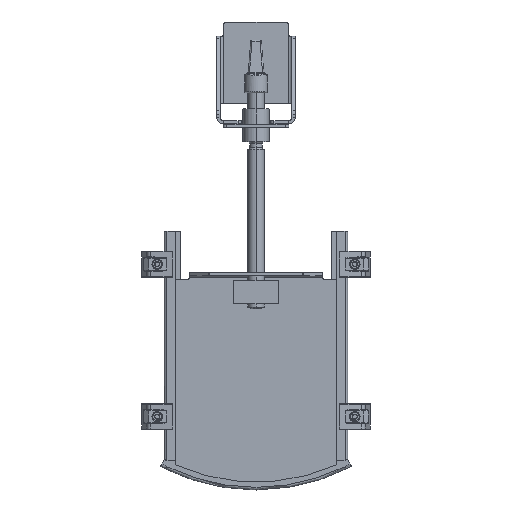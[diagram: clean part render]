
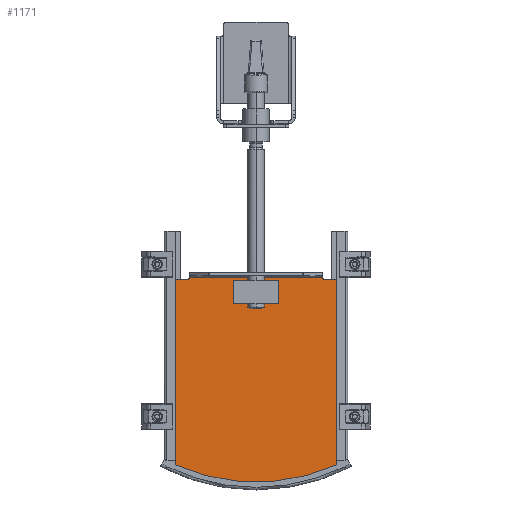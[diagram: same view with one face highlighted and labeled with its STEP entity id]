
A CAD part, top view. The second image highlights one B-rep face of the part: STEP entity #1171.
In plain terms, the highlighted planar face has unit normal (0, 0, 1).
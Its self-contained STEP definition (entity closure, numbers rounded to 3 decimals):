
#599 = DIRECTION ( 'NONE',  ( 0., 1., 0. ) ) ;
#963 = CARTESIAN_POINT ( 'NONE',  ( -34., 307.5, 33. ) ) ;
#1171 = ADVANCED_FACE ( 'NONE', ( #17820, #28386 ), #31300, .T. ) ;
#1368 = CARTESIAN_POINT ( 'NONE',  ( -102., 312., 33. ) ) ;
#1498 = EDGE_LOOP ( 'NONE', ( #8203, #20041, #18700, #14375, #24311, #4383, #10342, #18689 ) ) ;
#2123 = CARTESIAN_POINT ( 'NONE',  ( 102., 312., 33. ) ) ;
#2468 = ORIENTED_EDGE ( 'NONE', *, *, #4296, .F. ) ;
#2511 = CIRCLE ( 'NONE', #21721, 2. ) ;
#2779 = CARTESIAN_POINT ( 'NONE',  ( -34., 272.5, 33. ) ) ;
#3347 = EDGE_CURVE ( 'NONE', #7788, #27137, #26411, .T. ) ;
#3357 = EDGE_CURVE ( 'NONE', #21756, #11006, #8278, .T. ) ;
#3409 = EDGE_CURVE ( 'NONE', #3825, #4461, #13781, .T. ) ;
#3825 = VERTEX_POINT ( 'NONE', #27289 ) ;
#4296 = EDGE_CURVE ( 'NONE', #27137, #3825, #21002, .T. ) ;
#4383 = ORIENTED_EDGE ( 'NONE', *, *, #10980, .T. ) ;
#4461 = VERTEX_POINT ( 'NONE', #963 ) ;
#4578 = VECTOR ( 'NONE', #27561, 1000. ) ;
#5219 = EDGE_CURVE ( 'NONE', #11006, #26477, #13375, .T. ) ;
#5359 = DIRECTION ( 'NONE',  ( 0., 1., 0. ) ) ;
#5394 = LINE ( 'NONE', #31739, #32559 ) ;
#5747 = VECTOR ( 'NONE', #5359, 1000. ) ;
#6757 = DIRECTION ( 'NONE',  ( 0., 0., 1. ) ) ;
#6839 = CARTESIAN_POINT ( 'NONE',  ( -34., 307.5, 33. ) ) ;
#7521 = CARTESIAN_POINT ( 'NONE',  ( -123., -12.001, 33. ) ) ;
#7788 = VERTEX_POINT ( 'NONE', #31628 ) ;
#8129 = EDGE_CURVE ( 'NONE', #18954, #9169, #24704, .T. ) ;
#8203 = ORIENTED_EDGE ( 'NONE', *, *, #22697, .T. ) ;
#8278 = LINE ( 'NONE', #31705, #23791 ) ;
#8324 = VECTOR ( 'NONE', #11535, 1000. ) ;
#8541 = DIRECTION ( 'NONE',  ( 0., 0., 1. ) ) ;
#8775 = VECTOR ( 'NONE', #22688, 1000. ) ;
#9169 = VERTEX_POINT ( 'NONE', #2123 ) ;
#9655 = DIRECTION ( 'NONE',  ( 1., 0., 0. ) ) ;
#10021 = DIRECTION ( 'NONE',  ( 0., 0., -1. ) ) ;
#10342 = ORIENTED_EDGE ( 'NONE', *, *, #3357, .T. ) ;
#10980 = EDGE_CURVE ( 'NONE', #13225, #21756, #2511, .T. ) ;
#11006 = VERTEX_POINT ( 'NONE', #28652 ) ;
#11281 = VECTOR ( 'NONE', #27195, 1000. ) ;
#11535 = DIRECTION ( 'NONE',  ( 1., 0., 0. ) ) ;
#11794 = EDGE_CURVE ( 'NONE', #13225, #9169, #28166, .T. ) ;
#11944 = DIRECTION ( 'NONE',  ( 1., 0., 0. ) ) ;
#12437 = DIRECTION ( 'NONE',  ( 0., 0., -1. ) ) ;
#12897 = CARTESIAN_POINT ( 'NONE',  ( 34., 272.5, 33. ) ) ;
#13225 = VERTEX_POINT ( 'NONE', #1368 ) ;
#13375 = LINE ( 'NONE', #7521, #26748 ) ;
#13427 = DIRECTION ( 'NONE',  ( -1., 0., 0. ) ) ;
#13698 = CARTESIAN_POINT ( 'NONE',  ( 123., 26.374, 33. ) ) ;
#13781 = LINE ( 'NONE', #16508, #4578 ) ;
#14375 = ORIENTED_EDGE ( 'NONE', *, *, #8129, .T. ) ;
#14407 = CARTESIAN_POINT ( 'NONE',  ( -104., 310., 33. ) ) ;
#14441 = VERTEX_POINT ( 'NONE', #14753 ) ;
#14753 = CARTESIAN_POINT ( 'NONE',  ( 123., 310., 33. ) ) ;
#15500 = AXIS2_PLACEMENT_3D ( 'NONE', #33147, #6757, #11944 ) ;
#16508 = CARTESIAN_POINT ( 'NONE',  ( -34., 307.5, 33. ) ) ;
#17077 = EDGE_CURVE ( 'NONE', #4461, #7788, #21998, .T. ) ;
#17820 = FACE_OUTER_BOUND ( 'NONE', #1498, .T. ) ;
#17964 = ORIENTED_EDGE ( 'NONE', *, *, #17077, .F. ) ;
#18422 = CARTESIAN_POINT ( 'NONE',  ( 34., 307.5, 33. ) ) ;
#18689 = ORIENTED_EDGE ( 'NONE', *, *, #5219, .T. ) ;
#18700 = ORIENTED_EDGE ( 'NONE', *, *, #32037, .T. ) ;
#18954 = VERTEX_POINT ( 'NONE', #22006 ) ;
#19309 = CIRCLE ( 'NONE', #15500, 300. ) ;
#20041 = ORIENTED_EDGE ( 'NONE', *, *, #26359, .T. ) ;
#21002 = LINE ( 'NONE', #18422, #5747 ) ;
#21256 = EDGE_LOOP ( 'NONE', ( #17964, #28771, #2468, #31248 ) ) ;
#21721 = AXIS2_PLACEMENT_3D ( 'NONE', #33133, #12437, #9655 ) ;
#21756 = VERTEX_POINT ( 'NONE', #14407 ) ;
#21975 = LINE ( 'NONE', #26885, #11281 ) ;
#21998 = LINE ( 'NONE', #6839, #8775 ) ;
#22006 = CARTESIAN_POINT ( 'NONE',  ( 104., 310., 33. ) ) ;
#22371 = AXIS2_PLACEMENT_3D ( 'NONE', #31988, #8541, #29433 ) ;
#22688 = DIRECTION ( 'NONE',  ( 0., -1., 0. ) ) ;
#22697 = EDGE_CURVE ( 'NONE', #26477, #23127, #19309, .T. ) ;
#23127 = VERTEX_POINT ( 'NONE', #13698 ) ;
#23189 = DIRECTION ( 'NONE',  ( 0., -1., 0. ) ) ;
#23280 = CARTESIAN_POINT ( 'NONE',  ( 104., 312., 33. ) ) ;
#23635 = DIRECTION ( 'NONE',  ( 1., 0., 0. ) ) ;
#23791 = VECTOR ( 'NONE', #13427, 1000. ) ;
#24311 = ORIENTED_EDGE ( 'NONE', *, *, #11794, .F. ) ;
#24704 = CIRCLE ( 'NONE', #33528, 2. ) ;
#24917 = VECTOR ( 'NONE', #29322, 1000. ) ;
#26359 = EDGE_CURVE ( 'NONE', #23127, #14441, #5394, .T. ) ;
#26411 = LINE ( 'NONE', #2779, #24917 ) ;
#26477 = VERTEX_POINT ( 'NONE', #28692 ) ;
#26748 = VECTOR ( 'NONE', #23189, 1000. ) ;
#26885 = CARTESIAN_POINT ( 'NONE',  ( 123.172, 310., 33. ) ) ;
#27137 = VERTEX_POINT ( 'NONE', #12897 ) ;
#27195 = DIRECTION ( 'NONE',  ( -1., 0., 0. ) ) ;
#27289 = CARTESIAN_POINT ( 'NONE',  ( 34., 307.5, 33. ) ) ;
#27423 = CARTESIAN_POINT ( 'NONE',  ( -130., 312., 33. ) ) ;
#27561 = DIRECTION ( 'NONE',  ( -1., 0., 0. ) ) ;
#28166 = LINE ( 'NONE', #27423, #8324 ) ;
#28386 = FACE_BOUND ( 'NONE', #21256, .T. ) ;
#28652 = CARTESIAN_POINT ( 'NONE',  ( -123., 310., 33. ) ) ;
#28692 = CARTESIAN_POINT ( 'NONE',  ( -123., 26.374, 33. ) ) ;
#28771 = ORIENTED_EDGE ( 'NONE', *, *, #3409, .F. ) ;
#29322 = DIRECTION ( 'NONE',  ( 1., 0., 0. ) ) ;
#29433 = DIRECTION ( 'NONE',  ( 1., 0., 0. ) ) ;
#31248 = ORIENTED_EDGE ( 'NONE', *, *, #3347, .F. ) ;
#31300 = PLANE ( 'NONE',  #22371 ) ;
#31628 = CARTESIAN_POINT ( 'NONE',  ( -34., 272.5, 33. ) ) ;
#31705 = CARTESIAN_POINT ( 'NONE',  ( -123.172, 310., 33. ) ) ;
#31739 = CARTESIAN_POINT ( 'NONE',  ( 123., 22.917, 33. ) ) ;
#31988 = CARTESIAN_POINT ( 'NONE',  ( -130., 31.851, 33. ) ) ;
#32037 = EDGE_CURVE ( 'NONE', #14441, #18954, #21975, .T. ) ;
#32559 = VECTOR ( 'NONE', #599, 1000. ) ;
#33133 = CARTESIAN_POINT ( 'NONE',  ( -104., 312., 33. ) ) ;
#33147 = CARTESIAN_POINT ( 'NONE',  ( 0., 300., 33. ) ) ;
#33528 = AXIS2_PLACEMENT_3D ( 'NONE', #23280, #10021, #23635 ) ;
